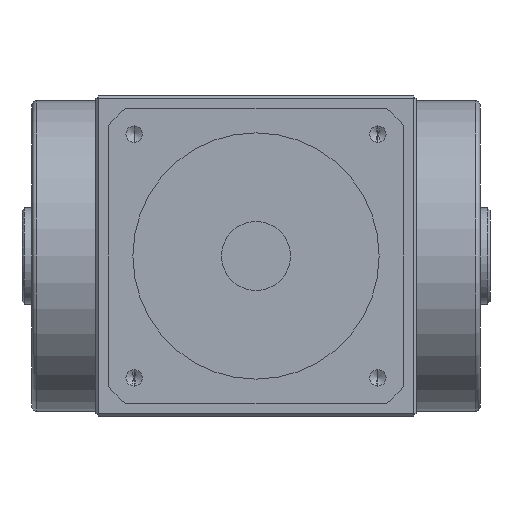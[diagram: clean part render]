
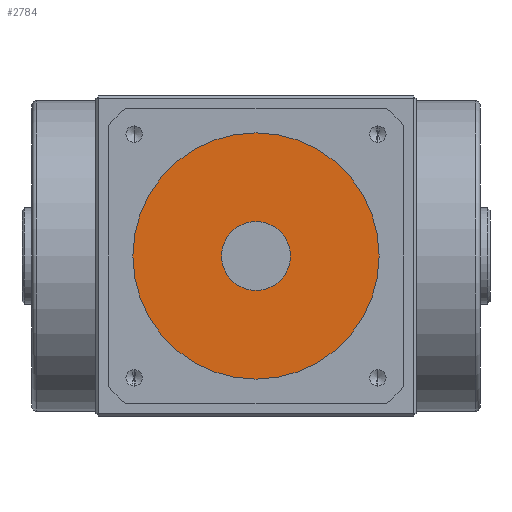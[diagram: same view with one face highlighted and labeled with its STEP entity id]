
A CAD part, front view. The second image highlights one B-rep face of the part: STEP entity #2784.
In plain terms, the highlighted planar face has unit normal (0, -1, 0).
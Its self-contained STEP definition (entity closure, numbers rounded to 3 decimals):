
#112 = CIRCLE ( 'NONE', #2134, 25. ) ;
#209 = CARTESIAN_POINT ( 'NONE',  ( 0., -134., 7. ) ) ;
#397 = DIRECTION ( 'NONE',  ( 0., 0., -1. ) ) ;
#409 = VERTEX_POINT ( 'NONE', #209 ) ;
#667 = DIRECTION ( 'NONE',  ( 0., 0., -1. ) ) ;
#730 = AXIS2_PLACEMENT_3D ( 'NONE', #9018, #4185, #667 ) ;
#736 = CARTESIAN_POINT ( 'NONE',  ( 0., -134., 0. ) ) ;
#1638 = CIRCLE ( 'NONE', #4862, 7. ) ;
#1681 = DIRECTION ( 'NONE',  ( 0., -1., 0. ) ) ;
#1693 = EDGE_CURVE ( 'NONE', #6258, #8934, #112, .T. ) ;
#1797 = CIRCLE ( 'NONE', #6856, 25. ) ;
#1898 = ORIENTED_EDGE ( 'NONE', *, *, #1964, .T. ) ;
#1904 = FACE_OUTER_BOUND ( 'NONE', #4942, .T. ) ;
#1964 = EDGE_CURVE ( 'NONE', #409, #2118, #1638, .T. ) ;
#2118 = VERTEX_POINT ( 'NONE', #5423 ) ;
#2134 = AXIS2_PLACEMENT_3D ( 'NONE', #5397, #8863, #7422 ) ;
#2625 = CARTESIAN_POINT ( 'NONE',  ( 0., -134., 25. ) ) ;
#2784 = ADVANCED_FACE ( 'NONE', ( #1904, #8671 ), #7215, .T. ) ;
#2956 = DIRECTION ( 'NONE',  ( 0., -1., 0. ) ) ;
#3110 = CARTESIAN_POINT ( 'NONE',  ( 0., -134., 0. ) ) ;
#3363 = ORIENTED_EDGE ( 'NONE', *, *, #6816, .T. ) ;
#4057 = CARTESIAN_POINT ( 'NONE',  ( 0., -134., -25. ) ) ;
#4068 = ORIENTED_EDGE ( 'NONE', *, *, #5915, .T. ) ;
#4100 = AXIS2_PLACEMENT_3D ( 'NONE', #8512, #2956, #7855 ) ;
#4185 = DIRECTION ( 'NONE',  ( 0., 1., 0. ) ) ;
#4862 = AXIS2_PLACEMENT_3D ( 'NONE', #736, #8374, #6983 ) ;
#4942 = EDGE_LOOP ( 'NONE', ( #6624, #3363 ) ) ;
#5397 = CARTESIAN_POINT ( 'NONE',  ( 0., -134., 0. ) ) ;
#5423 = CARTESIAN_POINT ( 'NONE',  ( 0., -134., -7. ) ) ;
#5613 = CIRCLE ( 'NONE', #730, 7. ) ;
#5872 = EDGE_LOOP ( 'NONE', ( #4068, #1898 ) ) ;
#5915 = EDGE_CURVE ( 'NONE', #2118, #409, #5613, .T. ) ;
#6258 = VERTEX_POINT ( 'NONE', #4057 ) ;
#6624 = ORIENTED_EDGE ( 'NONE', *, *, #1693, .T. ) ;
#6816 = EDGE_CURVE ( 'NONE', #8934, #6258, #1797, .T. ) ;
#6856 = AXIS2_PLACEMENT_3D ( 'NONE', #3110, #1681, #397 ) ;
#6983 = DIRECTION ( 'NONE',  ( 0., 0., -1. ) ) ;
#7215 = PLANE ( 'NONE',  #4100 ) ;
#7422 = DIRECTION ( 'NONE',  ( 0., 0., -1. ) ) ;
#7855 = DIRECTION ( 'NONE',  ( 0., 0., -1. ) ) ;
#8374 = DIRECTION ( 'NONE',  ( 0., 1., 0. ) ) ;
#8512 = CARTESIAN_POINT ( 'NONE',  ( 0., -134., 0. ) ) ;
#8671 = FACE_BOUND ( 'NONE', #5872, .T. ) ;
#8863 = DIRECTION ( 'NONE',  ( 0., -1., 0. ) ) ;
#8934 = VERTEX_POINT ( 'NONE', #2625 ) ;
#9018 = CARTESIAN_POINT ( 'NONE',  ( 0., -134., 0. ) ) ;
